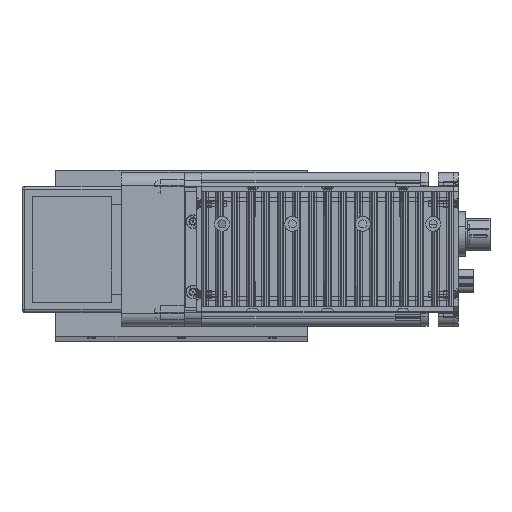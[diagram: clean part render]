
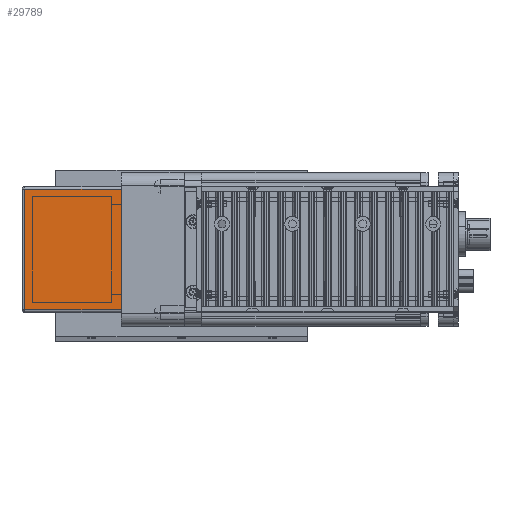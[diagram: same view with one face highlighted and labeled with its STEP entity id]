
A CAD part, top view. The second image highlights one B-rep face of the part: STEP entity #29789.
In plain terms, the highlighted planar face has unit normal (0, 0, 1) as drawn and (1, 0, 0) by its records, which use the part's own axes.
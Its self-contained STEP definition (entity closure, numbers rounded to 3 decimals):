
#20 = CARTESIAN_POINT ( 'NONE',  ( 62., -25., 0. ) ) ;
#34 = LINE ( 'NONE', #20, #77 ) ;
#46 = DIRECTION ( 'NONE',  ( 0., 1., 0. ) ) ;
#47 = VECTOR ( 'NONE', #46, 1000. ) ;
#70 = LINE ( 'NONE', #73, #47 ) ;
#73 = CARTESIAN_POINT ( 'NONE',  ( 62., -25., 38.5 ) ) ;
#76 = DIRECTION ( 'NONE',  ( 0., 1., 0. ) ) ;
#77 = VECTOR ( 'NONE', #76, 1000. ) ;
#337 = PLANE ( 'NONE',  #381 ) ;
#338 = FACE_OUTER_BOUND ( 'NONE', #29697, .T. ) ;
#378 = DIRECTION ( 'NONE',  ( 0., -1., 0. ) ) ;
#379 = DIRECTION ( 'NONE',  ( -1., 0., 0. ) ) ;
#380 = CARTESIAN_POINT ( 'NONE',  ( 62., 25., 39.5 ) ) ;
#381 = AXIS2_PLACEMENT_3D ( 'NONE', #380, #379, #378 ) ;
#4976 = CARTESIAN_POINT ( 'NONE',  ( 62., 24., 39.5 ) ) ;
#4977 = LINE ( 'NONE', #4976, #5006 ) ;
#4998 = CARTESIAN_POINT ( 'NONE',  ( 62., 24., 0. ) ) ;
#5000 = CARTESIAN_POINT ( 'NONE',  ( 62., -24., 38.5 ) ) ;
#5006 = VECTOR ( 'NONE', #5032, 1000. ) ;
#5026 = CARTESIAN_POINT ( 'NONE',  ( 62., 24., 38.5 ) ) ;
#5032 = DIRECTION ( 'NONE',  ( 0., 0., -1. ) ) ;
#27770 = VERTEX_POINT ( 'NONE', #41028 ) ;
#27781 = EDGE_CURVE ( 'NONE', #27770, #32290, #41070, .T. ) ;
#29650 = EDGE_CURVE ( 'NONE', #27770, #32291, #34, .T. ) ;
#29660 = EDGE_CURVE ( 'NONE', #32290, #32306, #70, .T. ) ;
#29697 = EDGE_LOOP ( 'NONE', ( #29717, #29764, #29793, #29774 ) ) ;
#29717 = ORIENTED_EDGE ( 'NONE', *, *, #27781, .F. ) ;
#29764 = ORIENTED_EDGE ( 'NONE', *, *, #29650, .T. ) ;
#29774 = ORIENTED_EDGE ( 'NONE', *, *, #29660, .F. ) ;
#29789 = ADVANCED_FACE ( 'NONE', ( #338 ), #337, .F. ) ;
#29793 = ORIENTED_EDGE ( 'NONE', *, *, #32302, .F. ) ;
#32290 = VERTEX_POINT ( 'NONE', #5000 ) ;
#32291 = VERTEX_POINT ( 'NONE', #4998 ) ;
#32302 = EDGE_CURVE ( 'NONE', #32306, #32291, #4977, .T. ) ;
#32306 = VERTEX_POINT ( 'NONE', #5026 ) ;
#41028 = CARTESIAN_POINT ( 'NONE',  ( 62., -24., 0. ) ) ;
#41053 = DIRECTION ( 'NONE',  ( 0., 0., 1. ) ) ;
#41054 = VECTOR ( 'NONE', #41053, 1000. ) ;
#41055 = CARTESIAN_POINT ( 'NONE',  ( 62., -24., 39.5 ) ) ;
#41070 = LINE ( 'NONE', #41055, #41054 ) ;
